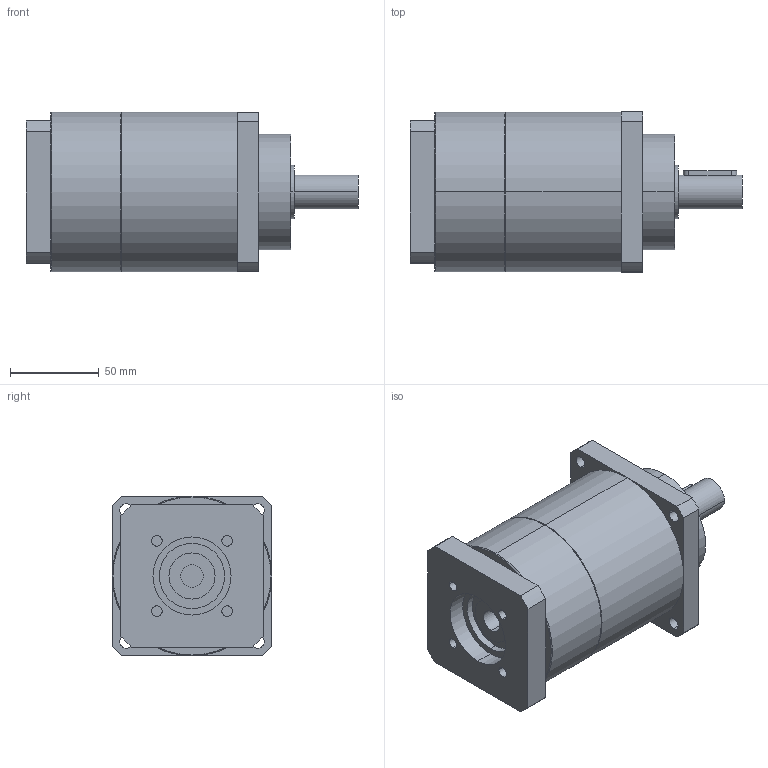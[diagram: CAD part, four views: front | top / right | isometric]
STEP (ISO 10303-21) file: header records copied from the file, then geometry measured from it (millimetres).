
FILE_DESCRIPTION(('CoCreate Modeling STEP Export'),'2;1');
FILE_NAME('GPT90_ig-9-12-16-20-25-28-35-40-50-70-100_19_B5T_12.7_P31.stp','2015-02-04T11:27:54',(''),(''),'CoCreate Modeling STEP processor for AP214 (Solid Model)','CoCreate Modeling 16.00C 25-Feb-2009 (C) Parametric Technology GmbH','');
FILE_SCHEMA(('AUTOMOTIVE_DESIGN { 1 0 10303 214 1 1 1 1 }'));
Length unit declared in the file: millimetre
Products named in the file (2): GPT90_ig-9-12-16-20-25-28-35-40-50-70-100_19_B5T_12.7_P31
Assembly tree (1 placements, depth 2):
  GPT90_ig-9-12-16-20-25-28-35-40-50-70-100_19_B5T_12.7_P31
    GPT90_ig-9-12-16-20-25-28-35-40-50-70-100_19_B5T_12.7_P31
Bounding box: 187 x 90 x 90 mm (x, y, z)
Volume: 898732.6 mm3; surface area: 67313.1 mm2
Topology: 1 solids, 1 shells, 88 faces, 221 edges, 148 vertices
Faces by surface type: cylinder 46, plane 38, cone 4
Entity records: 2699 total; most frequent: CARTESIAN_POINT 754, ORIENTED_EDGE 442, DIRECTION 330, EDGE_CURVE 221, VERTEX_POINT 148, AXIS2_PLACEMENT_3D 121, EDGE_LOOP 109, VECTOR 88
